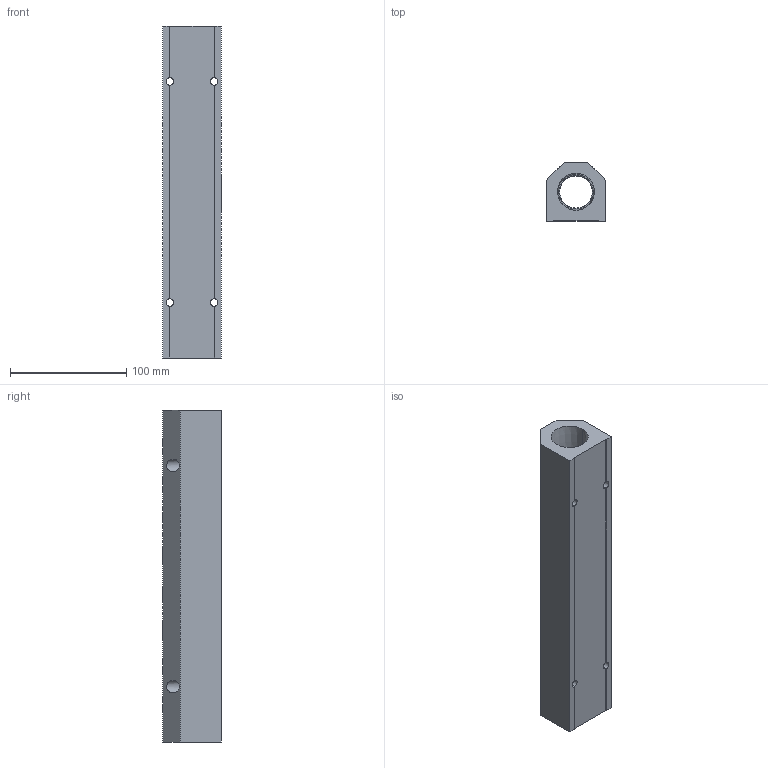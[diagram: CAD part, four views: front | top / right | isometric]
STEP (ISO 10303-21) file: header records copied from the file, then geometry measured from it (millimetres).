
FILE_DESCRIPTION (( 'STEP AP214' ), '1' );
FILE_NAME ('ALM8C-N4N16-286R.STEP', '2023-11-02T06:53:21', ( '' ), ( '' ), 'SwSTEP 2.0', 'SolidWorks 2020', '' );
FILE_SCHEMA (( 'AUTOMOTIVE_DESIGN' ));
Length unit declared in the file: millimetre
Products named in the file (1): ALM8C-N4N16-286R
Bounding box: 50.8 x 50.8 x 286 mm (x, y, z)
Volume: 462349.4 mm3; surface area: 87190.6 mm2
Topology: 1 solids, 1 shells, 302 faces, 785 edges, 518 vertices
Faces by surface type: plane 183, bspline 73, cone 24, cylinder 22
Entity records: 16885 total; most frequent: CARTESIAN_POINT 7231, ORIENTED_EDGE 1570, DIRECTION 1127, EDGE_CURVE 785, LINE 547, VECTOR 547, VERTEX_POINT 518, EDGE_LOOP 361
